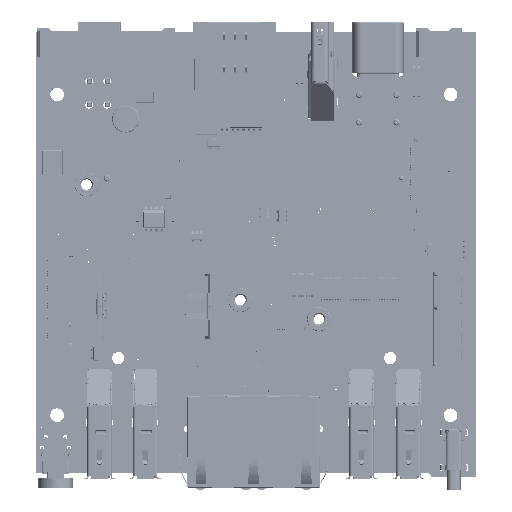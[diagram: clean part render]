
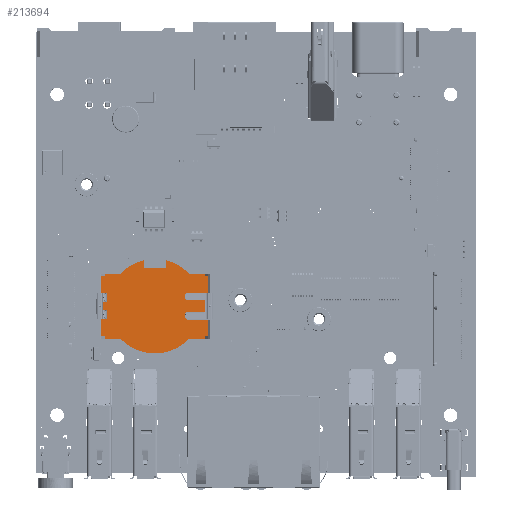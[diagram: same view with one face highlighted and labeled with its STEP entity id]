
A CAD part, top view. The second image highlights one B-rep face of the part: STEP entity #213694.
In plain terms, the highlighted planar face has unit normal (0, 0, 1) as drawn and (0, 1, 0) by its records, which use the part's own axes.
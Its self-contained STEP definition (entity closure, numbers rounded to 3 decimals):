
#213338 = EDGE_CURVE('',#213339,#213341,#213343,.T.);
#213339 = VERTEX_POINT('',#213340);
#213340 = CARTESIAN_POINT('',(8.04,0.75,7.58));
#213341 = VERTEX_POINT('',#213342);
#213342 = CARTESIAN_POINT('',(0.,0.75,11.05));
#213343 = CIRCLE('',#213344,11.05);
#213344 = AXIS2_PLACEMENT_3D('',#213345,#213346,#213347);
#213345 = CARTESIAN_POINT('',(0.,0.75,0.));
#213346 = DIRECTION('',(0.,-1.,-0.));
#213347 = DIRECTION('',(0.,0.,-1.));
#213380 = EDGE_CURVE('',#213381,#213383,#213385,.T.);
#213381 = VERTEX_POINT('',#213382);
#213382 = CARTESIAN_POINT('',(-2.54,0.75,-10.754));
#213383 = VERTEX_POINT('',#213384);
#213384 = CARTESIAN_POINT('',(-8.04,0.75,-7.58));
#213385 = CIRCLE('',#213386,11.05);
#213386 = AXIS2_PLACEMENT_3D('',#213387,#213388,#213389);
#213387 = CARTESIAN_POINT('',(0.,0.75,0.));
#213388 = DIRECTION('',(0.,1.,0.));
#213389 = DIRECTION('',(0.,-0.,1.));
#213490 = VERTEX_POINT('',#213491);
#213491 = CARTESIAN_POINT('',(2.54,0.75,-10.754));
#213497 = EDGE_CURVE('',#213498,#213490,#213500,.T.);
#213498 = VERTEX_POINT('',#213499);
#213499 = CARTESIAN_POINT('',(8.04,0.75,-7.58));
#213500 = CIRCLE('',#213501,11.05);
#213501 = AXIS2_PLACEMENT_3D('',#213502,#213503,#213504);
#213502 = CARTESIAN_POINT('',(0.,0.75,0.));
#213503 = DIRECTION('',(0.,1.,0.));
#213504 = DIRECTION('',(0.,-0.,1.));
#213552 = VERTEX_POINT('',#213553);
#213553 = CARTESIAN_POINT('',(-11.695,0.75,-7.58));
#213559 = EDGE_CURVE('',#213383,#213552,#213560,.T.);
#213560 = LINE('',#213561,#213562);
#213561 = CARTESIAN_POINT('',(-8.04,0.75,-7.58));
#213562 = VECTOR('',#213563,1.);
#213563 = DIRECTION('',(-1.,0.,0.));
#213694 = ADVANCED_FACE('',(#213695),#213898,.T.);
#213695 = FACE_BOUND('',#213696,.T.);
#213696 = EDGE_LOOP('',(#213697,#213705,#213706,#213707,#213715,#213723,
    #213731,#213739,#213747,#213755,#213762,#213763,#213771,#213779,
    #213787,#213795,#213803,#213812,#213820,#213828,#213836,#213845,
    #213853,#213861,#213869,#213877,#213883,#213884,#213892));
#213697 = ORIENTED_EDGE('',*,*,#213698,.F.);
#213698 = EDGE_CURVE('',#213381,#213699,#213701,.T.);
#213699 = VERTEX_POINT('',#213700);
#213700 = CARTESIAN_POINT('',(-2.54,0.75,-9.02));
#213701 = LINE('',#213702,#213703);
#213702 = CARTESIAN_POINT('',(-2.54,0.75,-9.02));
#213703 = VECTOR('',#213704,1.);
#213704 = DIRECTION('',(-0.,-0.,1.));
#213705 = ORIENTED_EDGE('',*,*,#213380,.T.);
#213706 = ORIENTED_EDGE('',*,*,#213559,.T.);
#213707 = ORIENTED_EDGE('',*,*,#213708,.F.);
#213708 = EDGE_CURVE('',#213709,#213552,#213711,.T.);
#213709 = VERTEX_POINT('',#213710);
#213710 = CARTESIAN_POINT('',(-11.695,0.75,-7.08));
#213711 = LINE('',#213712,#213713);
#213712 = CARTESIAN_POINT('',(-11.695,0.75,-7.08));
#213713 = VECTOR('',#213714,1.);
#213714 = DIRECTION('',(0.,0.,-1.));
#213715 = ORIENTED_EDGE('',*,*,#213716,.T.);
#213716 = EDGE_CURVE('',#213709,#213717,#213719,.T.);
#213717 = VERTEX_POINT('',#213718);
#213718 = CARTESIAN_POINT('',(-12.445,0.75,-7.08));
#213719 = LINE('',#213720,#213721);
#213720 = CARTESIAN_POINT('',(-12.445,0.75,-7.08));
#213721 = VECTOR('',#213722,1.);
#213722 = DIRECTION('',(-1.,-0.,-0.));
#213723 = ORIENTED_EDGE('',*,*,#213724,.F.);
#213724 = EDGE_CURVE('',#213725,#213717,#213727,.T.);
#213725 = VERTEX_POINT('',#213726);
#213726 = CARTESIAN_POINT('',(-12.445,0.75,7.08));
#213727 = LINE('',#213728,#213729);
#213728 = CARTESIAN_POINT('',(-12.445,0.75,0.));
#213729 = VECTOR('',#213730,1.);
#213730 = DIRECTION('',(-0.,0.,-1.));
#213731 = ORIENTED_EDGE('',*,*,#213732,.F.);
#213732 = EDGE_CURVE('',#213733,#213725,#213735,.T.);
#213733 = VERTEX_POINT('',#213734);
#213734 = CARTESIAN_POINT('',(-11.695,0.75,7.08));
#213735 = LINE('',#213736,#213737);
#213736 = CARTESIAN_POINT('',(-12.445,0.75,7.08));
#213737 = VECTOR('',#213738,1.);
#213738 = DIRECTION('',(-1.,-0.,0.));
#213739 = ORIENTED_EDGE('',*,*,#213740,.T.);
#213740 = EDGE_CURVE('',#213733,#213741,#213743,.T.);
#213741 = VERTEX_POINT('',#213742);
#213742 = CARTESIAN_POINT('',(-11.695,0.75,7.58));
#213743 = LINE('',#213744,#213745);
#213744 = CARTESIAN_POINT('',(-11.695,0.75,7.08));
#213745 = VECTOR('',#213746,1.);
#213746 = DIRECTION('',(0.,0.,1.));
#213747 = ORIENTED_EDGE('',*,*,#213748,.F.);
#213748 = EDGE_CURVE('',#213749,#213741,#213751,.T.);
#213749 = VERTEX_POINT('',#213750);
#213750 = CARTESIAN_POINT('',(-8.04,0.75,7.58));
#213751 = LINE('',#213752,#213753);
#213752 = CARTESIAN_POINT('',(-8.04,0.75,7.58));
#213753 = VECTOR('',#213754,1.);
#213754 = DIRECTION('',(-1.,0.,0.));
#213755 = ORIENTED_EDGE('',*,*,#213756,.F.);
#213756 = EDGE_CURVE('',#213341,#213749,#213757,.T.);
#213757 = CIRCLE('',#213758,11.05);
#213758 = AXIS2_PLACEMENT_3D('',#213759,#213760,#213761);
#213759 = CARTESIAN_POINT('',(0.,0.75,0.));
#213760 = DIRECTION('',(0.,-1.,-0.));
#213761 = DIRECTION('',(0.,0.,-1.));
#213762 = ORIENTED_EDGE('',*,*,#213338,.F.);
#213763 = ORIENTED_EDGE('',*,*,#213764,.T.);
#213764 = EDGE_CURVE('',#213339,#213765,#213767,.T.);
#213765 = VERTEX_POINT('',#213766);
#213766 = CARTESIAN_POINT('',(11.695,0.75,7.58));
#213767 = LINE('',#213768,#213769);
#213768 = CARTESIAN_POINT('',(8.04,0.75,7.58));
#213769 = VECTOR('',#213770,1.);
#213770 = DIRECTION('',(1.,0.,0.));
#213771 = ORIENTED_EDGE('',*,*,#213772,.F.);
#213772 = EDGE_CURVE('',#213773,#213765,#213775,.T.);
#213773 = VERTEX_POINT('',#213774);
#213774 = CARTESIAN_POINT('',(11.695,0.75,7.08));
#213775 = LINE('',#213776,#213777);
#213776 = CARTESIAN_POINT('',(11.695,0.75,7.08));
#213777 = VECTOR('',#213778,1.);
#213778 = DIRECTION('',(0.,0.,1.));
#213779 = ORIENTED_EDGE('',*,*,#213780,.T.);
#213780 = EDGE_CURVE('',#213773,#213781,#213783,.T.);
#213781 = VERTEX_POINT('',#213782);
#213782 = CARTESIAN_POINT('',(12.445,0.75,7.08));
#213783 = LINE('',#213784,#213785);
#213784 = CARTESIAN_POINT('',(12.445,0.75,7.08));
#213785 = VECTOR('',#213786,1.);
#213786 = DIRECTION('',(1.,0.,0.));
#213787 = ORIENTED_EDGE('',*,*,#213788,.F.);
#213788 = EDGE_CURVE('',#213789,#213781,#213791,.T.);
#213789 = VERTEX_POINT('',#213790);
#213790 = CARTESIAN_POINT('',(12.445,0.75,3.15));
#213791 = LINE('',#213792,#213793);
#213792 = CARTESIAN_POINT('',(12.445,0.75,0.));
#213793 = VECTOR('',#213794,1.);
#213794 = DIRECTION('',(0.,0.,1.));
#213795 = ORIENTED_EDGE('',*,*,#213796,.T.);
#213796 = EDGE_CURVE('',#213789,#213797,#213799,.T.);
#213797 = VERTEX_POINT('',#213798);
#213798 = CARTESIAN_POINT('',(7.886,0.75,3.15));
#213799 = LINE('',#213800,#213801);
#213800 = CARTESIAN_POINT('',(0.,0.75,3.15));
#213801 = VECTOR('',#213802,1.);
#213802 = DIRECTION('',(-1.,0.,0.));
#213803 = ORIENTED_EDGE('',*,*,#213804,.T.);
#213804 = EDGE_CURVE('',#213797,#213805,#213807,.T.);
#213805 = VERTEX_POINT('',#213806);
#213806 = CARTESIAN_POINT('',(7.886,0.75,1.35));
#213807 = CIRCLE('',#213808,0.9);
#213808 = AXIS2_PLACEMENT_3D('',#213809,#213810,#213811);
#213809 = CARTESIAN_POINT('',(7.886,0.75,2.25));
#213810 = DIRECTION('',(0.,-1.,-0.));
#213811 = DIRECTION('',(0.,0.,-1.));
#213812 = ORIENTED_EDGE('',*,*,#213813,.T.);
#213813 = EDGE_CURVE('',#213805,#213814,#213816,.T.);
#213814 = VERTEX_POINT('',#213815);
#213815 = CARTESIAN_POINT('',(11.649,0.75,1.35));
#213816 = LINE('',#213817,#213818);
#213817 = CARTESIAN_POINT('',(11.649,0.75,1.35));
#213818 = VECTOR('',#213819,1.);
#213819 = DIRECTION('',(1.,0.,0.));
#213820 = ORIENTED_EDGE('',*,*,#213821,.F.);
#213821 = EDGE_CURVE('',#213822,#213814,#213824,.T.);
#213822 = VERTEX_POINT('',#213823);
#213823 = CARTESIAN_POINT('',(11.649,0.75,-1.35));
#213824 = LINE('',#213825,#213826);
#213825 = CARTESIAN_POINT('',(11.649,0.75,0.));
#213826 = VECTOR('',#213827,1.);
#213827 = DIRECTION('',(0.,0.,1.));
#213828 = ORIENTED_EDGE('',*,*,#213829,.F.);
#213829 = EDGE_CURVE('',#213830,#213822,#213832,.T.);
#213830 = VERTEX_POINT('',#213831);
#213831 = CARTESIAN_POINT('',(7.886,0.75,-1.35));
#213832 = LINE('',#213833,#213834);
#213833 = CARTESIAN_POINT('',(11.649,0.75,-1.35));
#213834 = VECTOR('',#213835,1.);
#213835 = DIRECTION('',(1.,0.,0.));
#213836 = ORIENTED_EDGE('',*,*,#213837,.F.);
#213837 = EDGE_CURVE('',#213838,#213830,#213840,.T.);
#213838 = VERTEX_POINT('',#213839);
#213839 = CARTESIAN_POINT('',(7.886,0.75,-3.15));
#213840 = CIRCLE('',#213841,0.9);
#213841 = AXIS2_PLACEMENT_3D('',#213842,#213843,#213844);
#213842 = CARTESIAN_POINT('',(7.886,0.75,-2.25));
#213843 = DIRECTION('',(0.,1.,0.));
#213844 = DIRECTION('',(0.,-0.,1.));
#213845 = ORIENTED_EDGE('',*,*,#213846,.F.);
#213846 = EDGE_CURVE('',#213847,#213838,#213849,.T.);
#213847 = VERTEX_POINT('',#213848);
#213848 = CARTESIAN_POINT('',(12.445,0.75,-3.15));
#213849 = LINE('',#213850,#213851);
#213850 = CARTESIAN_POINT('',(0.,0.75,-3.15));
#213851 = VECTOR('',#213852,1.);
#213852 = DIRECTION('',(-1.,0.,0.));
#213853 = ORIENTED_EDGE('',*,*,#213854,.T.);
#213854 = EDGE_CURVE('',#213847,#213855,#213857,.T.);
#213855 = VERTEX_POINT('',#213856);
#213856 = CARTESIAN_POINT('',(12.445,0.75,-7.08));
#213857 = LINE('',#213858,#213859);
#213858 = CARTESIAN_POINT('',(12.445,0.75,0.));
#213859 = VECTOR('',#213860,1.);
#213860 = DIRECTION('',(0.,0.,-1.));
#213861 = ORIENTED_EDGE('',*,*,#213862,.F.);
#213862 = EDGE_CURVE('',#213863,#213855,#213865,.T.);
#213863 = VERTEX_POINT('',#213864);
#213864 = CARTESIAN_POINT('',(11.695,0.75,-7.08));
#213865 = LINE('',#213866,#213867);
#213866 = CARTESIAN_POINT('',(12.445,0.75,-7.08));
#213867 = VECTOR('',#213868,1.);
#213868 = DIRECTION('',(1.,-0.,-0.));
#213869 = ORIENTED_EDGE('',*,*,#213870,.T.);
#213870 = EDGE_CURVE('',#213863,#213871,#213873,.T.);
#213871 = VERTEX_POINT('',#213872);
#213872 = CARTESIAN_POINT('',(11.695,0.75,-7.58));
#213873 = LINE('',#213874,#213875);
#213874 = CARTESIAN_POINT('',(11.695,0.75,-7.08));
#213875 = VECTOR('',#213876,1.);
#213876 = DIRECTION('',(0.,0.,-1.));
#213877 = ORIENTED_EDGE('',*,*,#213878,.F.);
#213878 = EDGE_CURVE('',#213498,#213871,#213879,.T.);
#213879 = LINE('',#213880,#213881);
#213880 = CARTESIAN_POINT('',(8.04,0.75,-7.58));
#213881 = VECTOR('',#213882,1.);
#213882 = DIRECTION('',(1.,0.,0.));
#213883 = ORIENTED_EDGE('',*,*,#213497,.T.);
#213884 = ORIENTED_EDGE('',*,*,#213885,.F.);
#213885 = EDGE_CURVE('',#213886,#213490,#213888,.T.);
#213886 = VERTEX_POINT('',#213887);
#213887 = CARTESIAN_POINT('',(2.54,0.75,-9.02));
#213888 = LINE('',#213889,#213890);
#213889 = CARTESIAN_POINT('',(2.54,0.75,-9.02));
#213890 = VECTOR('',#213891,1.);
#213891 = DIRECTION('',(0.,0.,-1.));
#213892 = ORIENTED_EDGE('',*,*,#213893,.F.);
#213893 = EDGE_CURVE('',#213699,#213886,#213894,.T.);
#213894 = LINE('',#213895,#213896);
#213895 = CARTESIAN_POINT('',(2.54,0.75,-9.02));
#213896 = VECTOR('',#213897,1.);
#213897 = DIRECTION('',(1.,-0.,-0.));
#213898 = PLANE('',#213899);
#213899 = AXIS2_PLACEMENT_3D('',#213900,#213901,#213902);
#213900 = CARTESIAN_POINT('',(0.,0.75,0.));
#213901 = DIRECTION('',(0.,1.,0.));
#213902 = DIRECTION('',(0.,-0.,1.));
